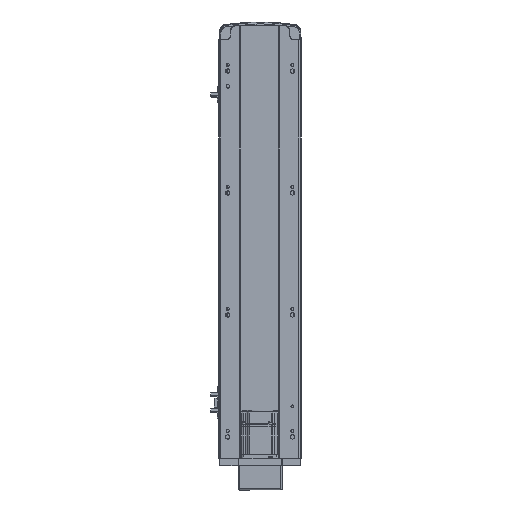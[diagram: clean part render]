
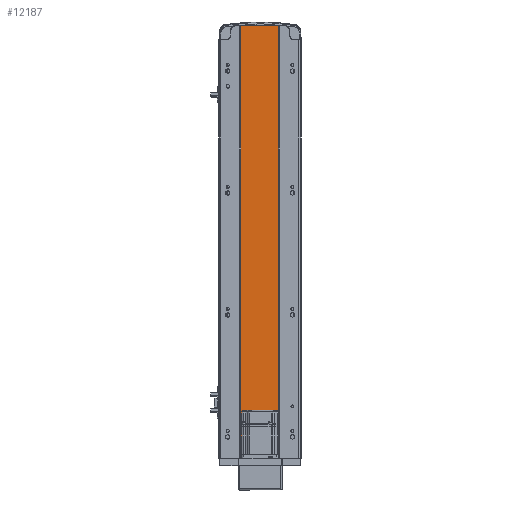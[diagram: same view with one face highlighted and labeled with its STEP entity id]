
A CAD part, front view. The second image highlights one B-rep face of the part: STEP entity #12187.
In plain terms, the highlighted planar face has unit normal (0, -1, 0).
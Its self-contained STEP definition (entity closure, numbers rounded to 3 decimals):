
#2338 = VERTEX_POINT ( 'NONE', #52291 ) ;
#2968 = CARTESIAN_POINT ( 'NONE',  ( -32., 1., 709. ) ) ;
#3410 = CARTESIAN_POINT ( 'NONE',  ( -32., 1., 0. ) ) ;
#5448 = DIRECTION ( 'NONE',  ( 0., 0., -1. ) ) ;
#10933 = DIRECTION ( 'NONE',  ( -1., 0., 0. ) ) ;
#12187 = ADVANCED_FACE ( 'NONE', ( #20746 ), #49408, .F. ) ;
#12619 = DIRECTION ( 'NONE',  ( 0., 0., -1. ) ) ;
#14063 = EDGE_CURVE ( 'NONE', #28424, #2338, #37846, .T. ) ;
#14921 = AXIS2_PLACEMENT_3D ( 'NONE', #31921, #42253, #10933 ) ;
#15854 = ORIENTED_EDGE ( 'NONE', *, *, #14063, .T. ) ;
#17459 = CARTESIAN_POINT ( 'NONE',  ( 30., 1., 709. ) ) ;
#20746 = FACE_OUTER_BOUND ( 'NONE', #23874, .T. ) ;
#21420 = EDGE_CURVE ( 'NONE', #27233, #28424, #53141, .T. ) ;
#22030 = ORIENTED_EDGE ( 'NONE', *, *, #51522, .F. ) ;
#23150 = VECTOR ( 'NONE', #43155, 1000. ) ;
#23874 = EDGE_LOOP ( 'NONE', ( #15854, #22030, #42647, #38253 ) ) ;
#23878 = LINE ( 'NONE', #2968, #23150 ) ;
#25392 = CARTESIAN_POINT ( 'NONE',  ( -32., 1., 709. ) ) ;
#27233 = VERTEX_POINT ( 'NONE', #25392 ) ;
#28424 = VERTEX_POINT ( 'NONE', #34497 ) ;
#29741 = VERTEX_POINT ( 'NONE', #17459 ) ;
#30928 = VECTOR ( 'NONE', #54737, 1000. ) ;
#31921 = CARTESIAN_POINT ( 'NONE',  ( -32., 1., 709. ) ) ;
#34035 = CARTESIAN_POINT ( 'NONE',  ( 30., 1., 709. ) ) ;
#34497 = CARTESIAN_POINT ( 'NONE',  ( -32., 1., 0. ) ) ;
#37846 = LINE ( 'NONE', #3410, #30928 ) ;
#38253 = ORIENTED_EDGE ( 'NONE', *, *, #21420, .T. ) ;
#38708 = VECTOR ( 'NONE', #5448, 1000. ) ;
#41186 = LINE ( 'NONE', #34035, #55600 ) ;
#42253 = DIRECTION ( 'NONE',  ( 0., 1., 0. ) ) ;
#42647 = ORIENTED_EDGE ( 'NONE', *, *, #51779, .F. ) ;
#43155 = DIRECTION ( 'NONE',  ( 1., 0., 0. ) ) ;
#49310 = CARTESIAN_POINT ( 'NONE',  ( -32., 1., 709. ) ) ;
#49408 = PLANE ( 'NONE',  #14921 ) ;
#51522 = EDGE_CURVE ( 'NONE', #29741, #2338, #41186, .T. ) ;
#51779 = EDGE_CURVE ( 'NONE', #27233, #29741, #23878, .T. ) ;
#52291 = CARTESIAN_POINT ( 'NONE',  ( 30., 1., 0. ) ) ;
#53141 = LINE ( 'NONE', #49310, #38708 ) ;
#54737 = DIRECTION ( 'NONE',  ( 1., 0., 0. ) ) ;
#55600 = VECTOR ( 'NONE', #12619, 1000. ) ;
